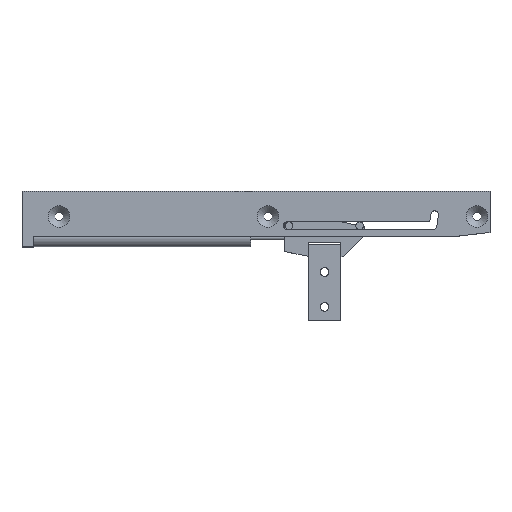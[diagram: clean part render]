
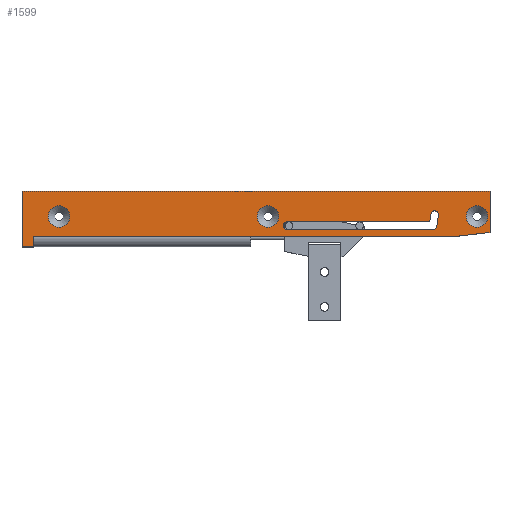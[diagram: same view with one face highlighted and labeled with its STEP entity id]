
A CAD part, top view. The second image highlights one B-rep face of the part: STEP entity #1599.
In plain terms, the highlighted planar face has unit normal (0, 0, 1).
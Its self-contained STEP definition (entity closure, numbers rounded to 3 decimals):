
#28=LINE('',#2301,#201);
#46=LINE('',#2370,#219);
#47=LINE('',#2371,#220);
#48=LINE('',#2373,#221);
#49=LINE('',#2375,#222);
#50=LINE('',#2377,#223);
#51=LINE('',#2378,#224);
#52=LINE('',#2383,#225);
#53=LINE('',#2385,#226);
#54=LINE('',#2389,#227);
#55=LINE('',#2393,#228);
#201=VECTOR('',#1845,5.);
#219=VECTOR('',#1907,25.5);
#220=VECTOR('',#1908,5.111);
#221=VECTOR('',#1909,195.31);
#222=VECTOR('',#1910,14.673);
#223=VECTOR('',#1911,18.851);
#224=VECTOR('',#1912,215.);
#225=VECTOR('',#1915,65.494);
#226=VECTOR('',#1916,3.629);
#227=VECTOR('',#1919,5.135);
#228=VECTOR('',#1922,67.);
#377=PLANE('',#1712);
#452=FACE_BOUND('',#593,.T.);
#453=FACE_BOUND('',#594,.T.);
#454=FACE_BOUND('',#595,.T.);
#455=FACE_BOUND('',#596,.T.);
#486=FACE_OUTER_BOUND('',#592,.T.);
#592=EDGE_LOOP('',(#1169,#1170,#1171,#1172,#1173,#1174,#1175));
#593=EDGE_LOOP('',(#1176));
#594=EDGE_LOOP('',(#1177,#1178,#1179,#1180,#1181,#1182,#1183));
#595=EDGE_LOOP('',(#1184));
#596=EDGE_LOOP('',(#1185));
#708=CIRCLE('',#1711,5.);
#709=CIRCLE('',#1713,5.);
#710=CIRCLE('',#1714,1.75);
#711=CIRCLE('',#1715,1.75);
#712=CIRCLE('',#1716,1.75);
#713=CIRCLE('',#1717,5.);
#747=VERTEX_POINT('',#2298);
#748=VERTEX_POINT('',#2300);
#775=VERTEX_POINT('',#2365);
#776=VERTEX_POINT('',#2368);
#777=VERTEX_POINT('',#2369);
#778=VERTEX_POINT('',#2372);
#779=VERTEX_POINT('',#2374);
#780=VERTEX_POINT('',#2376);
#781=VERTEX_POINT('',#2379);
#782=VERTEX_POINT('',#2381);
#783=VERTEX_POINT('',#2382);
#784=VERTEX_POINT('',#2384);
#785=VERTEX_POINT('',#2386);
#786=VERTEX_POINT('',#2388);
#787=VERTEX_POINT('',#2390);
#788=VERTEX_POINT('',#2392);
#789=VERTEX_POINT('',#2395);
#903=EDGE_CURVE('',#748,#747,#28,.T.);
#933=EDGE_CURVE('',#775,#775,#708,.T.);
#934=EDGE_CURVE('',#776,#777,#46,.T.);
#935=EDGE_CURVE('',#777,#748,#47,.T.);
#936=EDGE_CURVE('',#747,#778,#48,.T.);
#937=EDGE_CURVE('',#778,#779,#49,.T.);
#938=EDGE_CURVE('',#779,#780,#50,.T.);
#939=EDGE_CURVE('',#780,#776,#51,.T.);
#940=EDGE_CURVE('',#781,#781,#709,.T.);
#941=EDGE_CURVE('',#782,#783,#52,.T.);
#942=EDGE_CURVE('',#783,#784,#53,.T.);
#943=EDGE_CURVE('',#784,#785,#710,.T.);
#944=EDGE_CURVE('',#785,#786,#54,.T.);
#945=EDGE_CURVE('',#786,#787,#711,.T.);
#946=EDGE_CURVE('',#787,#788,#55,.T.);
#947=EDGE_CURVE('',#788,#782,#712,.T.);
#948=EDGE_CURVE('',#789,#789,#713,.T.);
#1169=ORIENTED_EDGE('',*,*,#934,.T.);
#1170=ORIENTED_EDGE('',*,*,#935,.T.);
#1171=ORIENTED_EDGE('',*,*,#903,.T.);
#1172=ORIENTED_EDGE('',*,*,#936,.T.);
#1173=ORIENTED_EDGE('',*,*,#937,.T.);
#1174=ORIENTED_EDGE('',*,*,#938,.T.);
#1175=ORIENTED_EDGE('',*,*,#939,.T.);
#1176=ORIENTED_EDGE('',*,*,#940,.F.);
#1177=ORIENTED_EDGE('',*,*,#941,.T.);
#1178=ORIENTED_EDGE('',*,*,#942,.T.);
#1179=ORIENTED_EDGE('',*,*,#943,.T.);
#1180=ORIENTED_EDGE('',*,*,#944,.T.);
#1181=ORIENTED_EDGE('',*,*,#945,.T.);
#1182=ORIENTED_EDGE('',*,*,#946,.T.);
#1183=ORIENTED_EDGE('',*,*,#947,.T.);
#1184=ORIENTED_EDGE('',*,*,#948,.F.);
#1185=ORIENTED_EDGE('',*,*,#933,.F.);
#1599=ADVANCED_FACE('',(#486,#452,#453,#454,#455),#377,.T.);
#1711=AXIS2_PLACEMENT_3D('',#2366,#1903,#1904);
#1712=AXIS2_PLACEMENT_3D('',#2367,#1905,#1906);
#1713=AXIS2_PLACEMENT_3D('',#2380,#1913,#1914);
#1714=AXIS2_PLACEMENT_3D('',#2387,#1917,#1918);
#1715=AXIS2_PLACEMENT_3D('',#2391,#1920,#1921);
#1716=AXIS2_PLACEMENT_3D('',#2394,#1923,#1924);
#1717=AXIS2_PLACEMENT_3D('',#2396,#1925,#1926);
#1845=DIRECTION('',(0.,1.,0.));
#1903=DIRECTION('center_axis',(0.,0.,1.));
#1904=DIRECTION('ref_axis',(-1.,0.,0.));
#1905=DIRECTION('center_axis',(0.,0.,1.));
#1906=DIRECTION('ref_axis',(1.,0.,0.));
#1907=DIRECTION('',(0.,-1.,0.));
#1908=DIRECTION('',(1.,0.,0.));
#1909=DIRECTION('',(1.,0.,0.));
#1910=DIRECTION('',(0.994,0.112,0.));
#1911=DIRECTION('',(0.,1.,0.));
#1912=DIRECTION('',(-1.,0.,0.));
#1913=DIRECTION('center_axis',(0.,0.,1.));
#1914=DIRECTION('ref_axis',(-1.,0.,0.));
#1915=DIRECTION('',(1.,0.,0.));
#1916=DIRECTION('',(0.149,0.989,0.));
#1917=DIRECTION('center_axis',(0.,0.,-1.));
#1918=DIRECTION('ref_axis',(-0.989,0.149,0.));
#1919=DIRECTION('',(-0.149,-0.989,0.));
#1920=DIRECTION('center_axis',(0.,0.,-1.));
#1921=DIRECTION('ref_axis',(0.989,-0.149,0.));
#1922=DIRECTION('',(-1.,0.,0.));
#1923=DIRECTION('center_axis',(0.,0.,-1.));
#1924=DIRECTION('ref_axis',(0.,1.,0.));
#1925=DIRECTION('center_axis',(0.,0.,1.));
#1926=DIRECTION('ref_axis',(-1.,0.,0.));
#2298=CARTESIAN_POINT('',(-272.889,55.067,5.));
#2300=CARTESIAN_POINT('',(-272.889,50.067,5.));
#2301=CARTESIAN_POINT('',(-272.889,50.067,5.));
#2365=CARTESIAN_POINT('',(-64.,64.067,5.));
#2366=CARTESIAN_POINT('Origin',(-69.,64.067,5.));
#2367=CARTESIAN_POINT('Origin',(-173.039,65.053,5.));
#2368=CARTESIAN_POINT('',(-278.,75.567,5.));
#2369=CARTESIAN_POINT('',(-278.,50.067,5.));
#2370=CARTESIAN_POINT('',(-278.,75.567,5.));
#2371=CARTESIAN_POINT('',(-278.,50.067,5.));
#2372=CARTESIAN_POINT('',(-77.58,55.067,5.));
#2373=CARTESIAN_POINT('',(-272.889,55.067,5.));
#2374=CARTESIAN_POINT('',(-63.,56.716,5.));
#2375=CARTESIAN_POINT('',(-77.58,55.067,5.));
#2376=CARTESIAN_POINT('',(-63.,75.567,5.));
#2377=CARTESIAN_POINT('',(-63.,50.067,5.));
#2378=CARTESIAN_POINT('',(-63.,75.567,5.));
#2379=CARTESIAN_POINT('',(-160.,64.067,5.));
#2380=CARTESIAN_POINT('Origin',(-165.,64.067,5.));
#2381=CARTESIAN_POINT('',(-156.194,61.567,5.));
#2382=CARTESIAN_POINT('',(-90.7,61.567,5.));
#2383=CARTESIAN_POINT('',(-131.117,61.567,5.));
#2384=CARTESIAN_POINT('',(-90.159,65.155,5.));
#2385=CARTESIAN_POINT('',(-91.087,59.,5.));
#2386=CARTESIAN_POINT('',(-86.699,64.634,5.));
#2387=CARTESIAN_POINT('Origin',(-88.429,64.894,5.));
#2388=CARTESIAN_POINT('',(-87.464,59.556,5.));
#2389=CARTESIAN_POINT('',(-88.009,55.939,5.));
#2390=CARTESIAN_POINT('',(-89.194,58.067,5.));
#2391=CARTESIAN_POINT('Origin',(-89.194,59.817,5.));
#2392=CARTESIAN_POINT('',(-156.194,58.067,5.));
#2393=CARTESIAN_POINT('',(-164.617,58.067,5.));
#2394=CARTESIAN_POINT('Origin',(-156.194,59.817,5.));
#2395=CARTESIAN_POINT('',(-256.,64.067,5.));
#2396=CARTESIAN_POINT('Origin',(-261.,64.067,5.));
